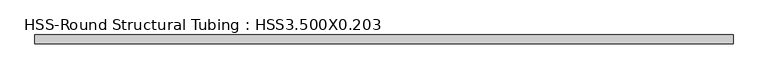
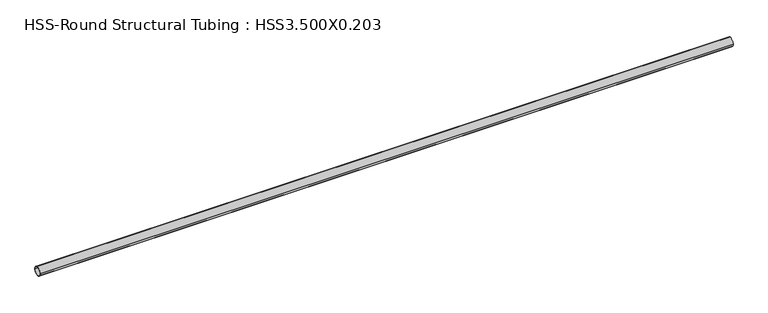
"""IFC4 building model written with IfcOpenShell, lengths in millimetres: beam geometry, HSS-Round Structural Tubing : HSS3.500X0.203."""

from ifc_helpers import new_model, si_unit, point, frame, origin, origin_2d, place, context, project, spatial, circle_curve, trimmed, segment, composite_curve, outline, extrude, source, transform, mapped, element, save


def hss_round_structural_tubing_hss3_500x0_203_38bf33a0(model_context):
    return source(origin(), model_context, "Body", "SweptSolid", [
        extrude(outline(composite_curve([segment(trimmed(circle_curve(origin_2d(), 44.45), [point((-44.45, 0.0))], [point((44.45, 0.0))], False, "CARTESIAN"), True, "CONTINUOUS"), segment(trimmed(circle_curve(origin_2d(), 44.45), [point((44.45, 0.0))], [point((-44.45, 0.0))], False, "CARTESIAN"), True, "CONTINUOUS")], self_intersect=False), holes=[composite_curve([segment(trimmed(circle_curve(origin_2d(), 39.6494), [point((39.6494, 0.0))], [point((-39.6494, 0.0))], True, "CARTESIAN"), True, "CONTINUOUS"), segment(trimmed(circle_curve(origin_2d(), 39.6494), [point((-39.6494, 0.0))], [point((39.6494, 0.0))], True, "CARTESIAN"), True, "CONTINUOUS")], self_intersect=False)]), frame((-3485.6777802, 0.0, 0.0), z_axis=(1.0, 0.0, 0.0), x_axis=(0.0, 1.0, 0.0)), (0.0, 0.0, 1.0), 6897.5253882),
    ])


if __name__ == "__main__":
    model = new_model("IFC4")
    model_context = context("Model", 3, world=origin())
    ifc_project = project(units=[si_unit("LENGTHUNIT", "METRE", prefix="MILLI")], contexts=[model_context])
    site = spatial("IfcSite", under=ifc_project)
    building = spatial("IfcBuilding", under=site)
    placement = place(None, origin())
    hss_round_structural_tubing_hss3_500x0_203_shape = hss_round_structural_tubing_hss3_500x0_203_38bf33a0(model_context)
    element("IfcBeam", 1, ObjectType="HSS-Round Structural Tubing : HSS3.500X0.203", at=placement, inside=building, context=model_context, shape_type="MappedRepresentation", body=[
        mapped(hss_round_structural_tubing_hss3_500x0_203_shape, transform((0.0, 0.0, 0.0), x_axis=(1.0, 0.0, 0.0), y_axis=(0.0, 1.0, 0.0), z_axis=(0.0, 0.0, 1.0))),
    ])
    save(model, "model.ifc")
